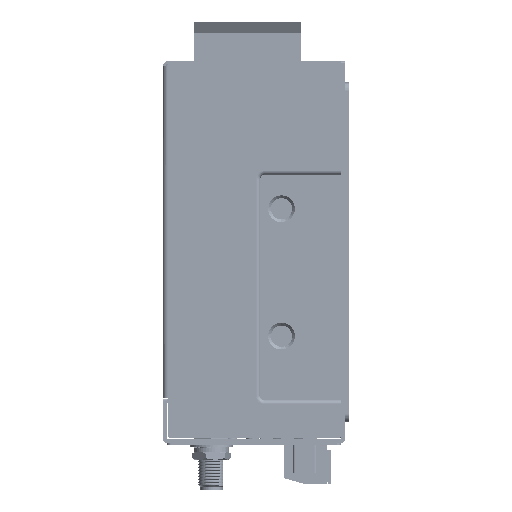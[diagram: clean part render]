
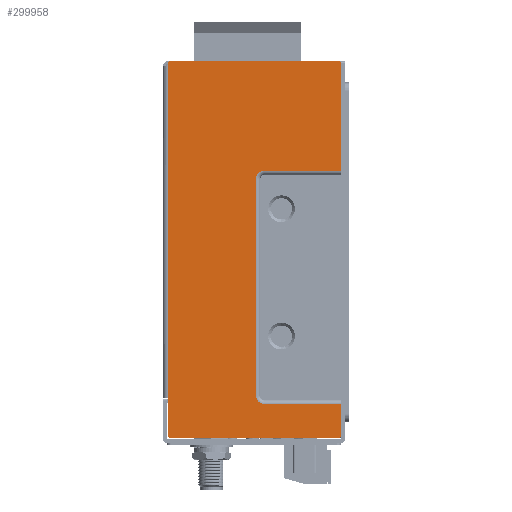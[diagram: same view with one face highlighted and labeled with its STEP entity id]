
A CAD part, left-side view. The second image highlights one B-rep face of the part: STEP entity #299958.
In plain terms, the highlighted planar face has unit normal (-1, 0, 0).
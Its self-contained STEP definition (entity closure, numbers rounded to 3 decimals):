
#9690 = VECTOR ( 'NONE', #183695, 1000. ) ;
#12140 = EDGE_CURVE ( 'NONE', #92639, #226188, #335995, .T. ) ;
#18764 = VERTEX_POINT ( 'NONE', #351279 ) ;
#21470 = CARTESIAN_POINT ( 'NONE',  ( 0., 40.5, -79.1 ) ) ;
#38262 = DIRECTION ( 'NONE',  ( 0., 0., -1. ) ) ;
#38877 = AXIS2_PLACEMENT_3D ( 'NONE', #313204, #127351, #46711 ) ;
#43816 = VECTOR ( 'NONE', #143036, 1000. ) ;
#46711 = DIRECTION ( 'NONE',  ( 0., 1., 0. ) ) ;
#55030 = ORIENTED_EDGE ( 'NONE', *, *, #328770, .T. ) ;
#59265 = VECTOR ( 'NONE', #346351, 1000. ) ;
#70456 = DIRECTION ( 'NONE',  ( 0., 1., 0. ) ) ;
#73256 = CARTESIAN_POINT ( 'NONE',  ( 0., 0.75, 9.15 ) ) ;
#82961 = VECTOR ( 'NONE', #379946, 1000. ) ;
#85180 = LINE ( 'NONE', #200088, #397329 ) ;
#86529 = VECTOR ( 'NONE', #377662, 1000. ) ;
#87331 = VERTEX_POINT ( 'NONE', #163378 ) ;
#89008 = VERTEX_POINT ( 'NONE', #384884 ) ;
#89987 = EDGE_CURVE ( 'NONE', #439590, #424182, #343921, .T. ) ;
#92639 = VERTEX_POINT ( 'NONE', #465685 ) ;
#93952 = ORIENTED_EDGE ( 'NONE', *, *, #94965, .T. ) ;
#94965 = EDGE_CURVE ( 'NONE', #210814, #138532, #249823, .T. ) ;
#95689 = FACE_OUTER_BOUND ( 'NONE', #115023, .T. ) ;
#101300 = EDGE_CURVE ( 'NONE', #117697, #266597, #194353, .T. ) ;
#101787 = AXIS2_PLACEMENT_3D ( 'NONE', #73256, #222470, #371609 ) ;
#105452 = EDGE_CURVE ( 'NONE', #92639, #328697, #142186, .T. ) ;
#109554 = CARTESIAN_POINT ( 'NONE',  ( 0., 23., -0.35 ) ) ;
#109918 = VERTEX_POINT ( 'NONE', #323147 ) ;
#111972 = PLANE ( 'NONE',  #373308 ) ;
#115023 = EDGE_LOOP ( 'NONE', ( #341725, #93952, #327298, #308159, #254683, #418174, #265301, #201229, #429079, #396021, #144136, #293800, #259158, #136809, #383150, #55030 ) ) ;
#115926 = CARTESIAN_POINT ( 'NONE',  ( 0., 0.25, -79.1 ) ) ;
#117697 = VERTEX_POINT ( 'NONE', #152509 ) ;
#119020 = CARTESIAN_POINT ( 'NONE',  ( 0., 0., -53.35 ) ) ;
#127351 = DIRECTION ( 'NONE',  ( -1., 0., 0. ) ) ;
#133416 = CARTESIAN_POINT ( 'NONE',  ( 0., 23., -51.35 ) ) ;
#136809 = ORIENTED_EDGE ( 'NONE', *, *, #89987, .T. ) ;
#137087 = AXIS2_PLACEMENT_3D ( 'NONE', #133416, #167658, #201932 ) ;
#138532 = VERTEX_POINT ( 'NONE', #444375 ) ;
#142186 = LINE ( 'NONE', #291384, #9690 ) ;
#143036 = DIRECTION ( 'NONE',  ( 0., 0., -1. ) ) ;
#144136 = ORIENTED_EDGE ( 'NONE', *, *, #101300, .T. ) ;
#146993 = EDGE_CURVE ( 'NONE', #424182, #380452, #216486, .T. ) ;
#152509 = CARTESIAN_POINT ( 'NONE',  ( 0., 23., 1.65 ) ) ;
#163378 = CARTESIAN_POINT ( 'NONE',  ( 0., 41., 9.15 ) ) ;
#163571 = LINE ( 'NONE', #195394, #296873 ) ;
#167658 = DIRECTION ( 'NONE',  ( 1., 0., 0. ) ) ;
#167855 = EDGE_CURVE ( 'NONE', #89008, #87331, #404739, .T. ) ;
#170946 = EDGE_CURVE ( 'NONE', #138532, #292753, #420286, .T. ) ;
#176121 = CARTESIAN_POINT ( 'NONE',  ( 0., 41., -78.6 ) ) ;
#179847 = DIRECTION ( 'NONE',  ( -1., 0., 0. ) ) ;
#183695 = DIRECTION ( 'NONE',  ( 0., 0., -1. ) ) ;
#185287 = DIRECTION ( 'NONE',  ( 1., 0., 0. ) ) ;
#191018 = AXIS2_PLACEMENT_3D ( 'NONE', #368035, #255512, #443937 ) ;
#194353 = CIRCLE ( 'NONE', #467911, 2. ) ;
#195394 = CARTESIAN_POINT ( 'NONE',  ( 0., 21., 0. ) ) ;
#200088 = CARTESIAN_POINT ( 'NONE',  ( 0., 41., 9.65 ) ) ;
#201229 = ORIENTED_EDGE ( 'NONE', *, *, #167855, .T. ) ;
#201932 = DIRECTION ( 'NONE',  ( 0., 1., 0. ) ) ;
#202508 = CARTESIAN_POINT ( 'NONE',  ( 0., 0.25, -119.862 ) ) ;
#209287 = CARTESIAN_POINT ( 'NONE',  ( 0., 41., 0. ) ) ;
#210814 = VERTEX_POINT ( 'NONE', #475702 ) ;
#215069 = EDGE_CURVE ( 'NONE', #266597, #18764, #163571, .T. ) ;
#216486 = LINE ( 'NONE', #209287, #43816 ) ;
#217271 = AXIS2_PLACEMENT_3D ( 'NONE', #443991, #179847, #260369 ) ;
#222470 = DIRECTION ( 'NONE',  ( -1., 0., 0. ) ) ;
#226188 = VERTEX_POINT ( 'NONE', #410181 ) ;
#233327 = EDGE_CURVE ( 'NONE', #18764, #439590, #277820, .T. ) ;
#235417 = CARTESIAN_POINT ( 'NONE',  ( 0., 23., -53.35 ) ) ;
#247357 = DIRECTION ( 'NONE',  ( 0., 1., 0. ) ) ;
#249823 = CIRCLE ( 'NONE', #38877, 0.5 ) ;
#252110 = CARTESIAN_POINT ( 'NONE',  ( 0., 0., 0. ) ) ;
#254683 = ORIENTED_EDGE ( 'NONE', *, *, #105452, .F. ) ;
#255486 = EDGE_CURVE ( 'NONE', #328697, #292753, #451008, .T. ) ;
#255512 = DIRECTION ( 'NONE',  ( -1., 0., 0. ) ) ;
#258403 = LINE ( 'NONE', #263200, #451349 ) ;
#259158 = ORIENTED_EDGE ( 'NONE', *, *, #233327, .T. ) ;
#260369 = DIRECTION ( 'NONE',  ( 0., 1., 0. ) ) ;
#263200 = CARTESIAN_POINT ( 'NONE',  ( 0., 41., 0. ) ) ;
#263783 = DIRECTION ( 'NONE',  ( 0., -1., 0. ) ) ;
#265301 = ORIENTED_EDGE ( 'NONE', *, *, #343020, .F. ) ;
#266597 = VERTEX_POINT ( 'NONE', #463531 ) ;
#274857 = CARTESIAN_POINT ( 'NONE',  ( 0., 23., 1.65 ) ) ;
#277820 = CIRCLE ( 'NONE', #137087, 2. ) ;
#291384 = CARTESIAN_POINT ( 'NONE',  ( 0., 0.25, 9.65 ) ) ;
#292666 = CIRCLE ( 'NONE', #191018, 0.5 ) ;
#292753 = VERTEX_POINT ( 'NONE', #369129 ) ;
#293800 = ORIENTED_EDGE ( 'NONE', *, *, #215069, .T. ) ;
#296873 = VECTOR ( 'NONE', #310269, 1000. ) ;
#299958 = ADVANCED_FACE ( 'NONE', ( #95689 ), #111972, .F. ) ;
#303997 = VECTOR ( 'NONE', #306261, 1000. ) ;
#306261 = DIRECTION ( 'NONE',  ( 0., -1., 0. ) ) ;
#308159 = ORIENTED_EDGE ( 'NONE', *, *, #255486, .F. ) ;
#308668 = CARTESIAN_POINT ( 'NONE',  ( 0., 0.25, -79.1 ) ) ;
#310269 = DIRECTION ( 'NONE',  ( 0., 0., -1. ) ) ;
#313204 = CARTESIAN_POINT ( 'NONE',  ( 0., 0.75, -78.6 ) ) ;
#314861 = EDGE_CURVE ( 'NONE', #109918, #117697, #384941, .T. ) ;
#323147 = CARTESIAN_POINT ( 'NONE',  ( 0., 41., 1.65 ) ) ;
#327298 = ORIENTED_EDGE ( 'NONE', *, *, #170946, .T. ) ;
#328697 = VERTEX_POINT ( 'NONE', #454054 ) ;
#328770 = EDGE_CURVE ( 'NONE', #380452, #345665, #292666, .T. ) ;
#335995 = CIRCLE ( 'NONE', #101787, 0.5 ) ;
#341725 = ORIENTED_EDGE ( 'NONE', *, *, #370568, .T. ) ;
#343020 = EDGE_CURVE ( 'NONE', #89008, #226188, #85180, .T. ) ;
#343921 = LINE ( 'NONE', #119020, #59265 ) ;
#345665 = VERTEX_POINT ( 'NONE', #21470 ) ;
#346351 = DIRECTION ( 'NONE',  ( 0., 1., 0. ) ) ;
#347740 = LINE ( 'NONE', #308668, #303997 ) ;
#351279 = CARTESIAN_POINT ( 'NONE',  ( 0., 21., -51.35 ) ) ;
#368035 = CARTESIAN_POINT ( 'NONE',  ( 0., 40.5, -78.6 ) ) ;
#369129 = CARTESIAN_POINT ( 'NONE',  ( 0., 0.25, -77.923 ) ) ;
#370568 = EDGE_CURVE ( 'NONE', #345665, #210814, #347740, .T. ) ;
#371609 = DIRECTION ( 'NONE',  ( 0., 1., 0. ) ) ;
#373308 = AXIS2_PLACEMENT_3D ( 'NONE', #252110, #483788, #247357 ) ;
#377662 = DIRECTION ( 'NONE',  ( 0., -1., 0. ) ) ;
#379946 = DIRECTION ( 'NONE',  ( 0., 0., -1. ) ) ;
#380452 = VERTEX_POINT ( 'NONE', #176121 ) ;
#383150 = ORIENTED_EDGE ( 'NONE', *, *, #146993, .T. ) ;
#384884 = CARTESIAN_POINT ( 'NONE',  ( 0., 40.5, 9.65 ) ) ;
#384941 = LINE ( 'NONE', #274857, #86529 ) ;
#385955 = EDGE_CURVE ( 'NONE', #87331, #109918, #258403, .T. ) ;
#388410 = DIRECTION ( 'NONE',  ( 0., 0., 1. ) ) ;
#396021 = ORIENTED_EDGE ( 'NONE', *, *, #314861, .T. ) ;
#397329 = VECTOR ( 'NONE', #263783, 1000. ) ;
#398603 = CARTESIAN_POINT ( 'NONE',  ( 0., 41., -53.35 ) ) ;
#404739 = CIRCLE ( 'NONE', #217271, 0.5 ) ;
#410181 = CARTESIAN_POINT ( 'NONE',  ( 0., 0.75, 9.65 ) ) ;
#418174 = ORIENTED_EDGE ( 'NONE', *, *, #12140, .T. ) ;
#420286 = LINE ( 'NONE', #202508, #468695 ) ;
#424182 = VERTEX_POINT ( 'NONE', #398603 ) ;
#429079 = ORIENTED_EDGE ( 'NONE', *, *, #385955, .T. ) ;
#439590 = VERTEX_POINT ( 'NONE', #235417 ) ;
#443937 = DIRECTION ( 'NONE',  ( 0., 1., 0. ) ) ;
#443991 = CARTESIAN_POINT ( 'NONE',  ( 0., 40.5, 9.15 ) ) ;
#444375 = CARTESIAN_POINT ( 'NONE',  ( 0., 0.25, -78.6 ) ) ;
#451008 = LINE ( 'NONE', #115926, #82961 ) ;
#451349 = VECTOR ( 'NONE', #38262, 1000. ) ;
#454054 = CARTESIAN_POINT ( 'NONE',  ( 0., 0.25, 0.15 ) ) ;
#463531 = CARTESIAN_POINT ( 'NONE',  ( 0., 21., -0.35 ) ) ;
#465685 = CARTESIAN_POINT ( 'NONE',  ( 0., 0.25, 9.15 ) ) ;
#467911 = AXIS2_PLACEMENT_3D ( 'NONE', #109554, #185287, #70456 ) ;
#468695 = VECTOR ( 'NONE', #388410, 1000. ) ;
#475702 = CARTESIAN_POINT ( 'NONE',  ( 0., 0.75, -79.1 ) ) ;
#483788 = DIRECTION ( 'NONE',  ( 1., 0., 0. ) ) ;
